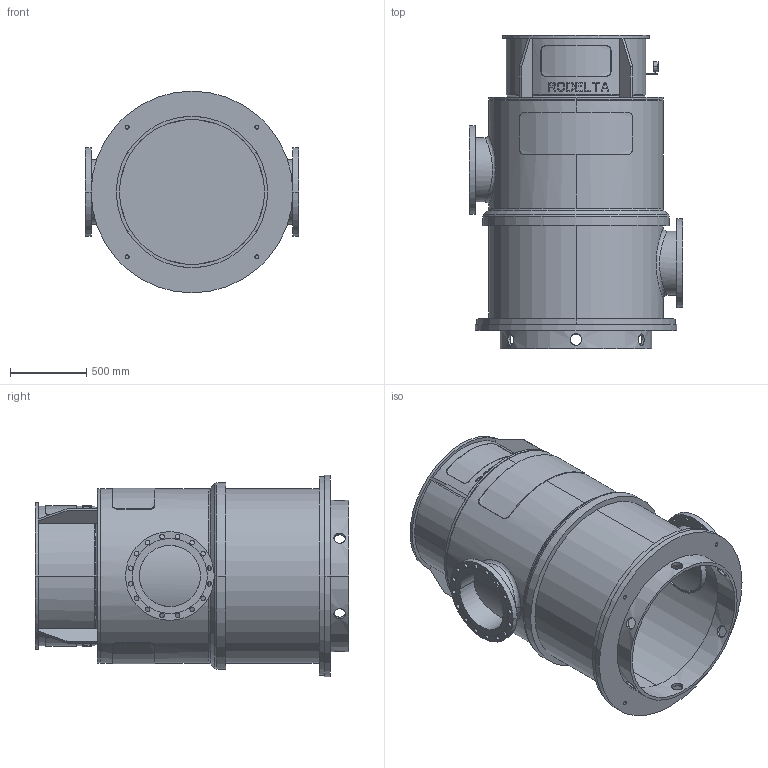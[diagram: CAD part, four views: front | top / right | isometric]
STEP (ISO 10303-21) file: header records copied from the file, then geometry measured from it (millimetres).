
FILE_DESCRIPTION((''),'2;1');
FILE_NAME('LS16_1TR_0GR','2023-08-23T',('Lyritlocal'),(''),'PRO/ENGINEER BY PARAMETRIC TECHNOLOGY CORPORATION, 2016360','PRO/ENGINEER BY PARAMETRIC TECHNOLOGY CORPORATION, 2016360','');
FILE_SCHEMA(('CONFIG_CONTROL_DESIGN'));
Length unit declared in the file: millimetre
Products named in the file (1): LS16_1TR_0GR
Bounding box: 1400 x 2052.5 x 1320 mm (x, y, z)
Volume: 171776461.2 mm3; surface area: 20406841.1 mm2
Topology: 3 solids, 3 shells, 564 faces, 1497 edges, 984 vertices
Faces by surface type: plane 346, cylinder 196, cone 14, bspline 4, torus 4
Entity records: 18915 total; most frequent: CARTESIAN_POINT 5093, ORIENTED_EDGE 2994, DIRECTION 2647, EDGE_CURVE 1497, AXIS2_PLACEMENT_3D 996, VERTEX_POINT 984, EDGE_LOOP 689, VECTOR 655
